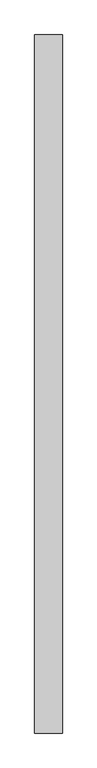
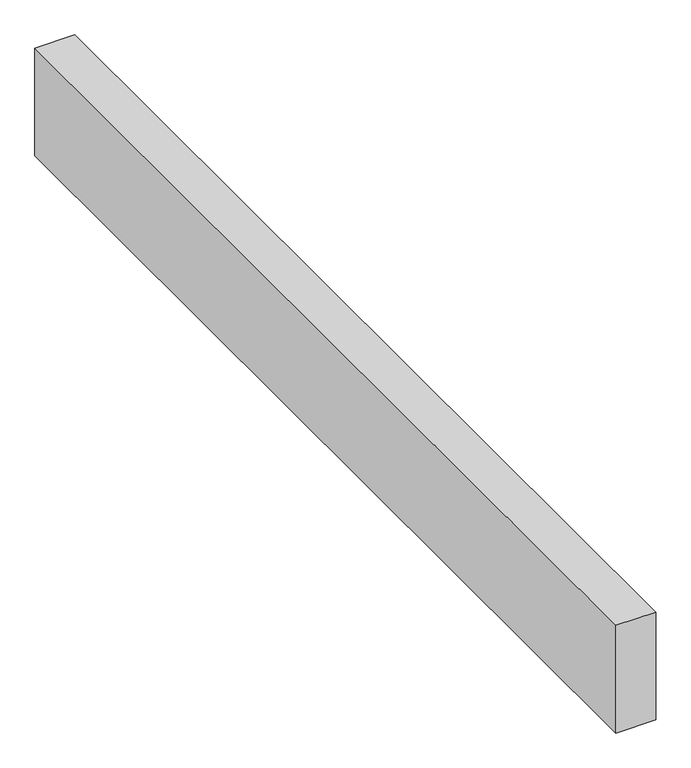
"""IFC4 building model written with IfcOpenShell, lengths in millimetres: proxy geometry."""

from ifc_helpers import new_model, si_unit, frame, origin, place, context, project, spatial, polyline, outline, extrude, source, transform, mapped, element, save


def structural_framing_3c3ba4f2(model_context):
    return source(origin(), model_context, "Body", "SweptSolid", [
        extrude(outline(polyline([(70.0, -1767.4), (-70.0, -1767.4), (-70.0, 1767.4), (70.0, 1767.4), (70.0, -1767.4)])), frame((0.0, 0.0, -400.0), z_axis=(0.0, 0.0, 1.0), x_axis=(1.0, 0.0, 0.0)), (0.0, 0.0, 1.0), 400.0),
    ])


if __name__ == "__main__":
    model = new_model("IFC4")
    model_context = context("Model", 3, world=origin())
    ifc_project = project(units=[si_unit("LENGTHUNIT", "METRE", prefix="MILLI")], contexts=[model_context])
    site = spatial("IfcSite", under=ifc_project)
    building = spatial("IfcBuilding", under=site)
    placement = place(None, origin())
    structural_framing_shape = structural_framing_3c3ba4f2(model_context)
    element("IfcBuildingElementProxy", 1, Name="Structural Framing", at=placement, inside=building, context=model_context, shape_type="MappedRepresentation", body=[
        mapped(structural_framing_shape, transform((0.0, 0.0, 0.0), x_axis=(1.0, 0.0, 0.0), y_axis=(0.0, 1.0, 0.0), z_axis=(0.0, 0.0, 1.0))),
    ])
    save(model, "model.ifc")
